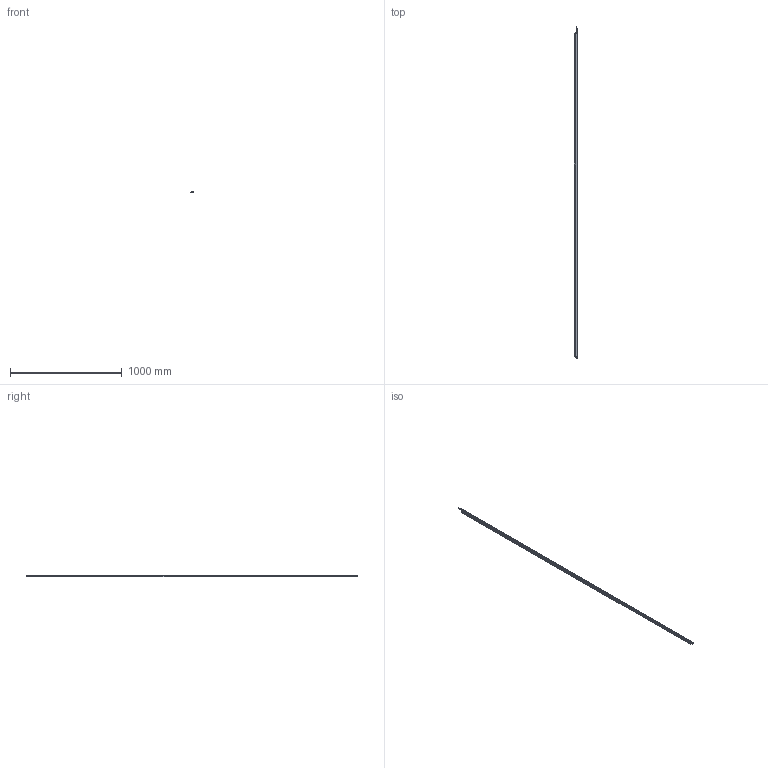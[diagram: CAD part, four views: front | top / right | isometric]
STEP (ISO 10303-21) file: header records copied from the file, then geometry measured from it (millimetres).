
FILE_DESCRIPTION (( 'STEP AP214' ), '1' );
FILE_NAME ('ILGA-L-K2-2910mm.STEP', '2026-04-25T08:28:40', ( '' ), ( '' ), 'SwSTEP 2.0', 'SolidWorks 2025', '' );
FILE_SCHEMA (( 'AUTOMOTIVE_DESIGN' ));
Length unit declared in the file: millimetre
Products named in the file (1): ILGA-L-K2-2910mm
Bounding box: 35 x 2964.5 x 10.7 mm (x, y, z)
Surface area: 449580.2 mm2 (no closed solid volume)
Topology: 0 solids, 13 shells, 931 faces, 2444 edges, 1515 vertices
Faces by surface type: cylinder 380, plane 343, cone 86, bspline 56, torus 50, sphere 16
Entity records: 41246 total; most frequent: CARTESIAN_POINT 8504, ORIENTED_EDGE 4769, DIRECTION 4682, EDGE_CURVE 2392, AXIS2_PLACEMENT_3D 1797, VERTEX_POINT 1515, VECTOR 1088, LINE 1088
